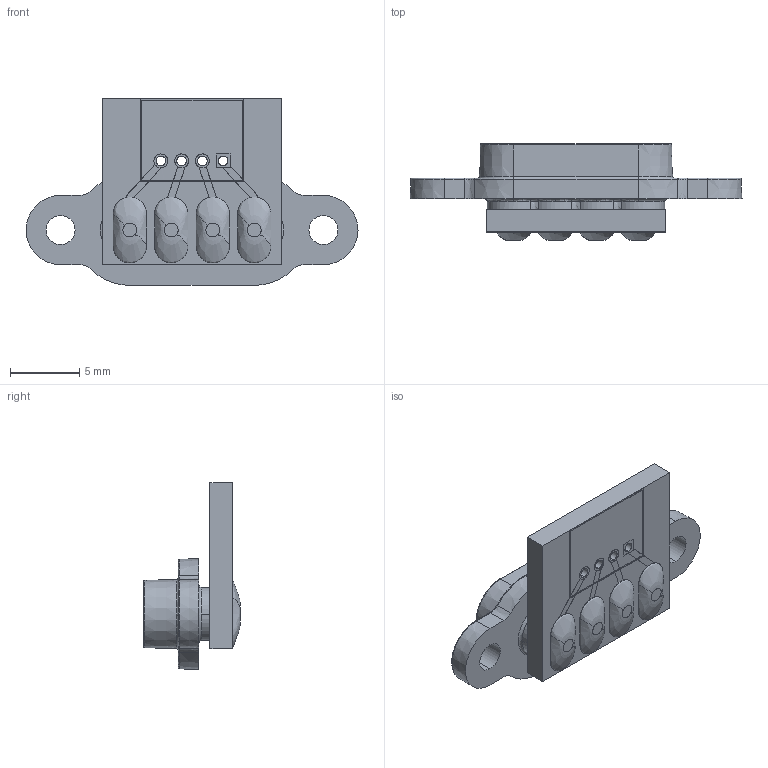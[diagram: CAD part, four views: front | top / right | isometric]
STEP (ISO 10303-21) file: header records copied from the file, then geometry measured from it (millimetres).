
FILE_DESCRIPTION (( 'STEP AP214' ), '1' );
FILE_NAME ('SWIFT DOCK MINI-4P-L.STEP', '2021-07-28T13:19:58', ( '' ), ( '' ), 'SwSTEP 2.0', 'SolidWorks 2021', '' );
FILE_SCHEMA (( 'AUTOMOTIVE_DESIGN' ));
Length unit declared in the file: millimetre
Products named in the file (6): PCB_4 way_mini_2; land body_4 hole_mini_2; solder_large_SD mini_10; contact land_sd_mini_8; PCB_4 way_mini_assy_pcb; SWIFT DOCK MINI-4P-L
Assembly tree (11 placements, depth 3):
  SWIFT DOCK MINI-4P-L
    land body_4 hole_mini_2
    contact land_sd_mini_8  x4
    PCB_4 way_mini_assy_pcb
      PCB_4 way_mini_2
    solder_large_SD mini_10  x4
Bounding box: 24 x 7 x 13.5 mm (x, y, z)
Volume: 662.5 mm3; surface area: 1307.5 mm2
Topology: 10 solids, 10 shells, 378 faces, 911 edges, 564 vertices
Faces by surface type: plane 127, cylinder 106, cone 87, bspline 58
Entity records: 14460 total; most frequent: CARTESIAN_POINT 4445, ORIENTED_EDGE 1458, DIRECTION 1230, EDGE_CURVE 729, AXIS2_PLACEMENT_3D 476, VERTEX_POINT 453, EDGE_LOOP 340, UNCERTAINTY_MEASURE_WITH_UNIT 308
